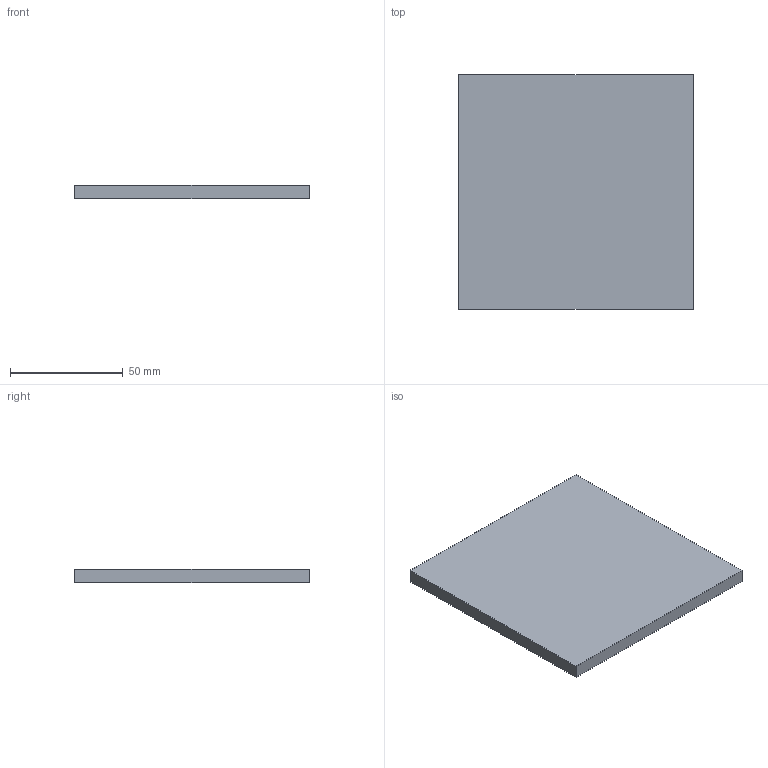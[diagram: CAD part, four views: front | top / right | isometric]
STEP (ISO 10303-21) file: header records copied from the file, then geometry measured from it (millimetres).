
FILE_DESCRIPTION(('Open CASCADE Model'),'2;1');
FILE_NAME('Open CASCADE Shape Model','2026-10-10T15:34:57',('Author'),( 'Open CASCADE'),'Open CASCADE STEP processor 7.9','Open CASCADE 7.9' ,'Unknown');
FILE_SCHEMA(('AUTOMOTIVE_DESIGN { 1 0 10303 214 1 1 1 1 }'));
Length unit declared in the file: millimetre
Products named in the file (1): Open CASCADE STEP translator 7.9 9
Bounding box: 104 x 104 x 6 mm (x, y, z)
Volume: 64896 mm3; surface area: 24128 mm2
Topology: 1 solids, 1 shells, 6 faces, 12 edges, 8 vertices
Faces by surface type: plane 6
Entity records: 322 total; most frequent: CARTESIAN_POINT 51, DIRECTION 50, LINE 36, VECTOR 36, ORIENTED_EDGE 24, PCURVE 24, DEFINITIONAL_REPRESENTATION 24, EDGE_CURVE 12
